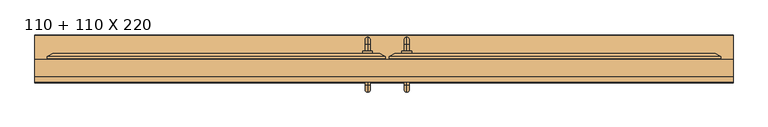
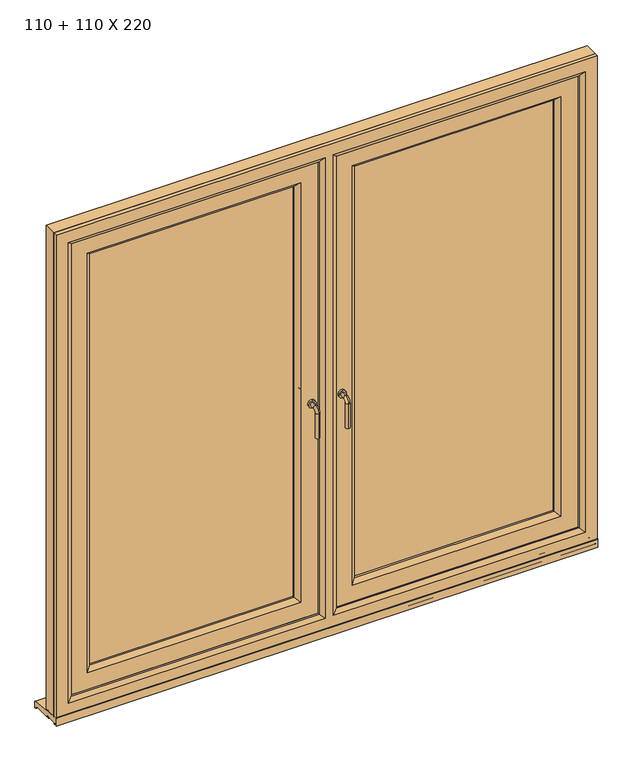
"""IFC4 building model written with IfcOpenShell, lengths in millimetres: door geometry, Door_Matrix 70_Double_Veka_Double Glazing_Outward Opening_Frame 67mm : 110 + 110 X 220."""

from ifc_helpers import new_model, si_unit, point, frame, frame_2d, origin, place, context, project, spatial, polyline, circle_curve, ellipse_curve, trimmed, segment, composite_curve, outline, extrude, faceted_brep, source, transform, mapped, element, save
from ifc_brep_helpers import plane_surface, cylinder_surface, revolved_surface, advanced_brep


def door_110_110_x_220_0e20b769(model_context):
    return source(origin(), model_context, "Body", "SolidModel", [
        advanced_brep(
        [(71.0137838, 236.299346, 992.0), (71.0137838, 236.299346, 1008.0), (71.0137838, 256.299346, 992.0), (71.0137838, 256.299346, 1008.0), (71.0137838, 279.299346, 985.0), (71.0137838, 263.299346, 985.0), (71.0137838, 263.299346, 880.0), (71.0137838, 279.299346, 880.0)],
        [
            (0, 1, circle_curve(frame((71.0137838, 236.299346, 1000.0), z_axis=(0.0, -1.0, 0.0), x_axis=(0.0, 0.0, 1.0)), 8.0)),
            (1, 0, circle_curve(frame((71.0137838, 236.299346, 1000.0), z_axis=(0.0, -1.0, 0.0), x_axis=(0.0, 0.0, 1.0)), 8.0)),
            (0, 2),
            (2, 3, circle_curve(frame((71.0137838, 256.299346, 1000.0), z_axis=(0.0, -1.0, 0.0), x_axis=(0.0, 0.0, 1.0)), 8.0)),
            (3, 1),
            (3, 2, circle_curve(frame((71.0137838, 256.299346, 1000.0), z_axis=(0.0, -1.0, 0.0), x_axis=(0.0, 0.0, 1.0)), 8.0)),
            (4, 3, circle_curve(frame((71.0137838, 256.299346, 985.0), z_axis=(1.0, 0.0, 0.0), x_axis=(0.0, 0.0, 1.0)), 23.0)),
            (2, 5, circle_curve(frame((71.0137838, 256.299346, 985.0), z_axis=(-1.0, 0.0, 0.0), x_axis=(0.0, 0.0, 1.0)), 7.0)),
            (5, 4, circle_curve(frame((71.0137838, 271.299346, 985.0), z_axis=(0.0, 0.0, 1.0), x_axis=(0.0, 1.0, 0.0)), 8.0)),
            (4, 5, circle_curve(frame((71.0137838, 271.299346, 985.0), z_axis=(0.0, 0.0, 1.0), x_axis=(0.0, 1.0, 0.0)), 8.0)),
            (6, 7, circle_curve(frame((71.0137838, 271.299346, 880.0), z_axis=(0.0, 0.0, -1.0), x_axis=(0.0, 1.0, 0.0)), 8.0)),
            (7, 6, circle_curve(frame((71.0137838, 271.299346, 880.0), z_axis=(0.0, 0.0, -1.0), x_axis=(0.0, 1.0, 0.0)), 8.0)),
            (5, 6),
            (7, 4),
        ],
        [
            plane_surface(frame((71.0137838, 236.299346, 1000.0), z_axis=(0.0, -1.0, 0.0), x_axis=(1.0, 0.0, 0.0))),
            cylinder_surface(frame((71.0137838, 236.299346, 1000.0), z_axis=(0.0, -1.0, 0.0), x_axis=(0.0, 0.0, 1.0)), 8.0),
            revolved_surface(trimmed(ellipse_curve(frame((71.0137838, 256.299346, 1000.0), z_axis=(0.0, -1.0, 0.0), x_axis=(0.0, 0.0, 1.0)), 8.0, 8.0), [point((71.0137838, 256.299346, 992.0))], [point((71.0137838, 256.299346, 1008.0))], True, "CARTESIAN"), (71.0137838, 256.299346, 985.0), (-1.0, 0.0, 0.0)),
            revolved_surface(trimmed(ellipse_curve(frame((71.0137838, 256.299346, 1000.0), z_axis=(0.0, -1.0, 0.0), x_axis=(0.0, 0.0, 1.0)), 8.0, 8.0), [point((71.0137838, 256.299346, 1008.0))], [point((71.0137838, 256.299346, 992.0))], True, "CARTESIAN"), (71.0137838, 256.299346, 985.0), (-1.0, 0.0, 0.0)),
            plane_surface(frame((71.0137838, 271.299346, 880.0), z_axis=(0.0, 0.0, -1.0), x_axis=(1.0, 0.0, 0.0))),
            cylinder_surface(frame((71.0137838, 271.299346, 985.0), z_axis=(0.0, 0.0, 1.0), x_axis=(0.0, 1.0, 0.0)), 8.0),
        ],
        [
            (0, [[1, 2]]),
            (1, [[-1, 3, 4, 5]]),
            (1, [[-2, -5, 6, -3]]),
            (2, [[7, -4, 8, 9]]),
            (3, [[-8, -6, -7, 10]]),
            (4, [[11, 12]]),
            (5, [[-9, 13, -12, 14]]),
            (5, [[-10, -14, -11, -13]]),
        ],
    ),
        extrude(outline(composite_curve([segment(trimmed(circle_curve(frame_2d((1000.0, 71.0000189)), 15.0), [point((1000.0, 56.0000189))], [point((1000.0, 86.0000189))], False, "CARTESIAN"), True, "CONTINUOUS"), segment(trimmed(circle_curve(frame_2d((1000.0, 71.0000189)), 15.0), [point((1000.0, 86.0000189))], [point((1000.0, 56.0000189))], False, "CARTESIAN"), True, "CONTINUOUS")], self_intersect=False)), frame((0.0, 228.299346, 0.0), z_axis=(0.0, 1.0, 0.0), x_axis=(0.0, 0.0, 1.0)), (0.0, 0.0, 1.0), 8.0),
        advanced_brep(
        [(-51.0137838, 236.299346, 992.0), (-51.0137838, 236.299346, 1008.0), (-51.0137838, 256.299346, 1008.0), (-51.0137838, 256.299346, 992.0), (-51.0137838, 279.299346, 985.0), (-51.0137838, 263.299346, 985.0), (-51.0137838, 263.299346, 880.0), (-51.0137838, 279.299346, 880.0)],
        [
            (0, 1, circle_curve(frame((-51.0137838, 236.299346, 1000.0), z_axis=(0.0, -1.0, 0.0), x_axis=(0.0, 0.0, 1.0)), 8.0)),
            (1, 0, circle_curve(frame((-51.0137838, 236.299346, 1000.0), z_axis=(0.0, -1.0, 0.0), x_axis=(0.0, 0.0, 1.0)), 8.0)),
            (1, 2),
            (2, 3, circle_curve(frame((-51.0137838, 256.299346, 1000.0), z_axis=(0.0, -1.0, 0.0), x_axis=(0.0, 0.0, 1.0)), 8.0)),
            (3, 0),
            (3, 2, circle_curve(frame((-51.0137838, 256.299346, 1000.0), z_axis=(0.0, -1.0, 0.0), x_axis=(0.0, 0.0, 1.0)), 8.0)),
            (4, 5, circle_curve(frame((-51.0137838, 271.299346, 985.0), z_axis=(0.0, 0.0, 1.0), x_axis=(0.0, 1.0, 0.0)), 8.0)),
            (5, 3, circle_curve(frame((-51.0137838, 256.299346, 985.0), z_axis=(1.0, 0.0, 0.0), x_axis=(0.0, 0.0, 1.0)), 7.0)),
            (2, 4, circle_curve(frame((-51.0137838, 256.299346, 985.0), z_axis=(-1.0, 0.0, 0.0), x_axis=(0.0, 0.0, 1.0)), 23.0)),
            (5, 4, circle_curve(frame((-51.0137838, 271.299346, 985.0), z_axis=(0.0, 0.0, 1.0), x_axis=(0.0, 1.0, 0.0)), 8.0)),
            (6, 7, circle_curve(frame((-51.0137838, 271.299346, 880.0), z_axis=(0.0, 0.0, -1.0), x_axis=(0.0, 1.0, 0.0)), 8.0)),
            (7, 6, circle_curve(frame((-51.0137838, 271.299346, 880.0), z_axis=(0.0, 0.0, -1.0), x_axis=(0.0, 1.0, 0.0)), 8.0)),
            (4, 7),
            (6, 5),
        ],
        [
            plane_surface(frame((-51.0137838, 236.299346, 1000.0), z_axis=(0.0, -1.0, 0.0), x_axis=(-1.0, 0.0, 0.0))),
            cylinder_surface(frame((-51.0137838, 236.299346, 1000.0), z_axis=(0.0, -1.0, 0.0), x_axis=(0.0, 0.0, 1.0)), 8.0),
            revolved_surface(trimmed(ellipse_curve(frame((-51.0137838, 256.299346, 1000.0), z_axis=(0.0, 1.0, 0.0), x_axis=(0.0, 0.0, 1.0)), 8.0, 8.0), [point((-51.0137838, 256.299346, 992.0))], [point((-51.0137838, 256.299346, 1008.0))], True, "CARTESIAN"), (-51.0137838, 256.299346, 985.0), (1.0, 0.0, 0.0)),
            revolved_surface(trimmed(ellipse_curve(frame((-51.0137838, 256.299346, 1000.0), z_axis=(0.0, 1.0, 0.0), x_axis=(0.0, 0.0, 1.0)), 8.0, 8.0), [point((-51.0137838, 256.299346, 1008.0))], [point((-51.0137838, 256.299346, 992.0))], True, "CARTESIAN"), (-51.0137838, 256.299346, 985.0), (1.0, 0.0, 0.0)),
            plane_surface(frame((-51.0137838, 271.299346, 880.0), z_axis=(0.0, 0.0, -1.0), x_axis=(-1.0, 0.0, 0.0))),
            cylinder_surface(frame((-51.0137838, 271.299346, 985.0), z_axis=(0.0, 0.0, 1.0), x_axis=(0.0, 1.0, 0.0)), 8.0),
        ],
        [
            (0, [[1, 2]]),
            (1, [[3, 4, 5, -2]]),
            (1, [[-5, 6, -3, -1]]),
            (2, [[7, 8, -4, 9]]),
            (3, [[10, -9, -6, -8]]),
            (4, [[11, 12]]),
            (5, [[13, -11, 14, -7]]),
            (5, [[-14, -12, -13, -10]]),
        ],
    ),
        extrude(outline(composite_curve([segment(trimmed(circle_curve(frame_2d((1000.0, -51.0000189)), 15.0), [point((1000.0, -36.0000189))], [point((1000.0, -66.0000189))], False, "CARTESIAN"), True, "CONTINUOUS"), segment(trimmed(circle_curve(frame_2d((1000.0, -51.0000189)), 15.0), [point((1000.0, -66.0000189))], [point((1000.0, -36.0000189))], False, "CARTESIAN"), True, "CONTINUOUS")], self_intersect=False)), frame((0.0, 228.299346, 0.0), z_axis=(0.0, 1.0, 0.0), x_axis=(0.0, 0.0, 1.0)), (0.0, 0.0, 1.0), 8.0),
        extrude(outline(composite_curve([segment(trimmed(circle_curve(frame_2d((138.1512093, 33.816203)), 1.1487907), [point((137.0024185, 33.816203))], [point((139.3, 33.816203))], False, "CARTESIAN"), True, "CONTINUOUS"), segment(polyline([(139.3, 33.816203), (139.3, 0.0), (137.0024185, 0.0), (137.0024185, 33.816203)]), True, "CONTINUOUS")], self_intersect=False)), frame((-1090.0, 0.0, 0.0), z_axis=(1.0, 0.0, 0.0), x_axis=(0.0, 1.0, 0.0)), (0.0, 0.0, 1.0), 2180.0),
        extrude(outline(composite_curve([segment(polyline([(139.3, 29.9684543), (200.4535091, 29.9684543)]), True, "CONTINUOUS"), segment(trimmed(circle_curve(frame_2d((200.4535091, 28.1882095)), 1.7802448), [point((200.4535091, 29.9684543))], [point((202.2337539, 28.1882095))], False, "CARTESIAN"), True, "CONTINUOUS"), segment(polyline([(202.2337539, 28.1882095), (202.2337539, 26.2762118)]), True, "CONTINUOUS"), segment(trimmed(circle_curve(frame_2d((203.8166581, 26.2762118)), 1.5829042), [point((202.2337539, 26.2762118))], [point((203.6511996, 24.701979))], True, "CARTESIAN"), True, "CONTINUOUS"), segment(polyline([(203.6511996, 24.701979), (284.7623156, 16.1768571)]), True, "CONTINUOUS"), segment(trimmed(circle_curve(frame_2d((284.5008157, 13.6888513)), 2.5017105), [point((284.7623156, 16.1768571))], [point((287.0025262, 13.6888513))], False, "CARTESIAN"), True, "CONTINUOUS"), segment(polyline([(287.0025262, 13.6888513), (287.0025262, -10.3901624)]), True, "CONTINUOUS"), segment(trimmed(circle_curve(frame_2d((286.2180242, -10.3901624)), 0.7845019), [point((287.0025262, -10.3901624))], [point((286.0699977, -11.1605723))], False, "CARTESIAN"), True, "CONTINUOUS"), segment(polyline([(286.0699977, -11.1605723), (282.2238902, -10.4215811)]), True, "CONTINUOUS"), segment(trimmed(circle_curve(frame_2d((282.4810103, -9.0833898)), 1.3626689), [point((282.2238902, -10.4215811))], [point((281.3174293, -9.7925766))], False, "CARTESIAN"), True, "CONTINUOUS"), segment(polyline([(281.3174293, -9.7925766), (275.3489876, 0.0), (204.3024682, 0.0), (202.8452654, 1.4572028)]), True, "CONTINUOUS"), segment(trimmed(circle_curve(frame_2d((203.3641335, 1.9760709)), 0.7337904), [point((202.8452654, 1.4572028))], [point((203.7735167, 2.5850485))], False, "CARTESIAN"), True, "CONTINUOUS"), segment(trimmed(circle_curve(frame_2d((204.052468, 3.0000022)), 0.5000004), [point((203.7735167, 2.5850485))], [point((204.5524684, 3.0000022))], True, "CARTESIAN"), True, "CONTINUOUS"), segment(polyline([(204.5524684, 3.0000022), (204.5524684, 6.7000049), (194.8524612, 6.7000049), (194.8524612, 3.1794688)]), True, "CONTINUOUS"), segment(trimmed(circle_curve(frame_2d((195.6249307, 3.1794688)), 0.7724695), [point((194.8524612, 3.1794688))], [point((195.8915102, 2.4544554))], True, "CARTESIAN"), True, "CONTINUOUS"), segment(trimmed(circle_curve(frame_2d((196.1045415, 1.8750769)), 0.617302), [point((195.8915102, 2.4544554))], [point((196.5410399, 1.4385785))], False, "CARTESIAN"), True, "CONTINUOUS"), segment(polyline([(196.5410399, 1.4385785), (195.5024617, 0.4000003), (192.2024592, 0.4000003), (191.163881, 1.4385785)]), True, "CONTINUOUS"), segment(trimmed(circle_curve(frame_2d((191.6003795, 1.8750769)), 0.617302), [point((191.163881, 1.4385785))], [point((191.8134107, 2.4544554))], False, "CARTESIAN"), True, "CONTINUOUS"), segment(trimmed(circle_curve(frame_2d((192.0799903, 3.1794688)), 0.7724695), [point((191.8134107, 2.4544554))], [point((192.8524597, 3.1794688))], True, "CARTESIAN"), True, "CONTINUOUS"), segment(polyline([(192.8524597, 3.1794688), (192.8524597, 4.6211108)]), True, "CONTINUOUS"), segment(trimmed(circle_curve(frame_2d((192.0735665, 4.6211108)), 0.7788932), [point((192.8524597, 4.6211108))], [point((192.0735665, 5.400004))], True, "CARTESIAN"), True, "CONTINUOUS"), segment(polyline([(192.0735665, 5.400004), (152.0132707, 5.400004)]), True, "CONTINUOUS"), segment(trimmed(circle_curve(frame_2d((152.0132707, 4.5391622)), 0.8608418), [point((152.0132707, 5.400004))], [point((151.1524289, 4.5391622))], True, "CARTESIAN"), True, "CONTINUOUS"), segment(polyline([(151.1524289, 4.5391622), (151.1524289, 3.0000022)]), True, "CONTINUOUS"), segment(trimmed(circle_curve(frame_2d((151.6524293, 3.0000022)), 0.5000004), [point((151.1524289, 3.0000022))], [point((151.899745, 2.5654504))], True, "CARTESIAN"), True, "CONTINUOUS"), segment(trimmed(circle_curve(frame_2d((152.2679893, 1.918418)), 0.7444829), [point((151.899745, 2.5654504))], [point((152.7944182, 1.3919891))], False, "CARTESIAN"), True, "CONTINUOUS"), segment(polyline([(152.7944182, 1.3919891), (151.4024291, 0.0), (148.9024273, 0.0), (147.4452245, 1.4572028)]), True, "CONTINUOUS"), segment(trimmed(circle_curve(frame_2d((147.9640926, 1.9760709)), 0.7337904), [point((147.4452245, 1.4572028))], [point((148.3734758, 2.5850485))], False, "CARTESIAN"), True, "CONTINUOUS"), segment(trimmed(circle_curve(frame_2d((148.6524271, 3.0000022)), 0.5000004), [point((148.3734758, 2.5850485))], [point((149.1524275, 3.0000022))], True, "CARTESIAN"), True, "CONTINUOUS"), segment(polyline([(149.1524275, 3.0000022), (149.1524275, 5.8233683)]), True, "CONTINUOUS"), segment(trimmed(circle_curve(frame_2d((148.2757908, 5.8233683)), 0.8766367), [point((149.1524275, 5.8233683))], [point((148.2757908, 6.7000049))], True, "CARTESIAN"), True, "CONTINUOUS"), segment(polyline([(148.2757908, 6.7000049), (139.3, 6.7000049), (139.3, 29.9684543)]), True, "CONTINUOUS")], self_intersect=False)), frame((-1090.0, 0.0, 0.0), z_axis=(1.0, 0.0, 0.0), x_axis=(0.0, 1.0, 0.0)), (0.0, 0.0, 1.0), 2180.0),
        advanced_brep(
        [(71.0137838, 150.3000993, 992.0), (71.0137838, 150.3000993, 1008.0), (71.0137838, 130.3000993, 1008.0), (71.0137838, 130.3000993, 992.0), (71.0137838, 107.3000993, 985.0), (71.0137838, 123.3000993, 985.0), (71.0137838, 123.3000993, 880.0), (71.0137838, 107.3000993, 880.0)],
        [
            (0, 1, circle_curve(frame((71.0137838, 150.3000993, 1000.0), z_axis=(0.0, 1.0, 0.0), x_axis=(0.0, 0.0, 1.0)), 8.0)),
            (1, 0, circle_curve(frame((71.0137838, 150.3000993, 1000.0), z_axis=(0.0, 1.0, 0.0), x_axis=(0.0, 0.0, 1.0)), 8.0)),
            (1, 2),
            (2, 3, circle_curve(frame((71.0137838, 130.3000993, 1000.0), z_axis=(0.0, 1.0, 0.0), x_axis=(0.0, 0.0, 1.0)), 8.0)),
            (3, 0),
            (3, 2, circle_curve(frame((71.0137838, 130.3000993, 1000.0), z_axis=(0.0, 1.0, 0.0), x_axis=(0.0, 0.0, 1.0)), 8.0)),
            (4, 5, circle_curve(frame((71.0137838, 115.3000993, 985.0), z_axis=(0.0, 0.0, 1.0), x_axis=(0.0, -1.0, 0.0)), 8.0)),
            (5, 3, circle_curve(frame((71.0137838, 130.3000993, 985.0), z_axis=(-1.0, 0.0, 0.0), x_axis=(0.0, 0.0, 1.0)), 7.0)),
            (2, 4, circle_curve(frame((71.0137838, 130.3000993, 985.0), z_axis=(1.0, 0.0, 0.0), x_axis=(0.0, 0.0, 1.0)), 23.0)),
            (5, 4, circle_curve(frame((71.0137838, 115.3000993, 985.0), z_axis=(0.0, 0.0, 1.0), x_axis=(0.0, -1.0, 0.0)), 8.0)),
            (6, 7, circle_curve(frame((71.0137838, 115.3000993, 880.0), z_axis=(0.0, 0.0, -1.0), x_axis=(0.0, -1.0, 0.0)), 8.0)),
            (7, 6, circle_curve(frame((71.0137838, 115.3000993, 880.0), z_axis=(0.0, 0.0, -1.0), x_axis=(0.0, -1.0, 0.0)), 8.0)),
            (4, 7),
            (6, 5),
        ],
        [
            plane_surface(frame((71.0137838, 150.3000993, 1000.0), z_axis=(0.0, 1.0, 0.0), x_axis=(1.0, 0.0, 0.0))),
            cylinder_surface(frame((71.0137838, 150.3000993, 1000.0), z_axis=(0.0, 1.0, 0.0), x_axis=(0.0, 0.0, 1.0)), 8.0),
            revolved_surface(trimmed(ellipse_curve(frame((71.0137838, 130.3000993, 1000.0), z_axis=(0.0, -1.0, 0.0), x_axis=(0.0, 0.0, 1.0)), 8.0, 8.0), [point((71.0137838, 130.3000993, 992.0))], [point((71.0137838, 130.3000993, 1008.0))], True, "CARTESIAN"), (71.0137838, 130.3000993, 985.0), (-1.0, 0.0, 0.0)),
            revolved_surface(trimmed(ellipse_curve(frame((71.0137838, 130.3000993, 1000.0), z_axis=(0.0, -1.0, 0.0), x_axis=(0.0, 0.0, 1.0)), 8.0, 8.0), [point((71.0137838, 130.3000993, 1008.0))], [point((71.0137838, 130.3000993, 992.0))], True, "CARTESIAN"), (71.0137838, 130.3000993, 985.0), (-1.0, 0.0, 0.0)),
            plane_surface(frame((71.0137838, 115.3000993, 880.0), z_axis=(0.0, 0.0, -1.0), x_axis=(1.0, 0.0, 0.0))),
            cylinder_surface(frame((71.0137838, 115.3000993, 985.0), z_axis=(0.0, 0.0, 1.0), x_axis=(0.0, -1.0, 0.0)), 8.0),
        ],
        [
            (0, [[1, 2]]),
            (1, [[3, 4, 5, -2]]),
            (1, [[-5, 6, -3, -1]]),
            (2, [[7, 8, -4, 9]]),
            (3, [[10, -9, -6, -8]]),
            (4, [[11, 12]]),
            (5, [[13, -11, 14, -7]]),
            (5, [[-14, -12, -13, -10]]),
        ],
    ),
        extrude(outline(composite_curve([segment(trimmed(circle_curve(frame_2d((1000.0, 71.0000189)), 15.0), [point((1000.0, 56.0000189))], [point((1000.0, 86.0000189))], False, "CARTESIAN"), True, "CONTINUOUS"), segment(trimmed(circle_curve(frame_2d((1000.0, 71.0000189)), 15.0), [point((1000.0, 86.0000189))], [point((1000.0, 56.0000189))], False, "CARTESIAN"), True, "CONTINUOUS")], self_intersect=False)), frame((0.0, 150.3000993, 0.0), z_axis=(0.0, 1.0, 0.0), x_axis=(0.0, 0.0, 1.0)), (0.0, 0.0, 1.0), 8.0),
        advanced_brep(
        [(-51.0137838, 150.3000993, 992.0), (-51.0137838, 150.3000993, 1008.0), (-51.0137838, 130.3000993, 992.0), (-51.0137838, 130.3000993, 1008.0), (-51.0137838, 107.3000993, 985.0), (-51.0137838, 123.3000993, 985.0), (-51.0137838, 123.3000993, 880.0), (-51.0137838, 107.3000993, 880.0)],
        [
            (0, 1, circle_curve(frame((-51.0137838, 150.3000993, 1000.0), z_axis=(0.0, 1.0, 0.0), x_axis=(0.0, 0.0, 1.0)), 8.0)),
            (1, 0, circle_curve(frame((-51.0137838, 150.3000993, 1000.0), z_axis=(0.0, 1.0, 0.0), x_axis=(0.0, 0.0, 1.0)), 8.0)),
            (0, 2),
            (2, 3, circle_curve(frame((-51.0137838, 130.3000993, 1000.0), z_axis=(0.0, 1.0, 0.0), x_axis=(0.0, 0.0, 1.0)), 8.0)),
            (3, 1),
            (3, 2, circle_curve(frame((-51.0137838, 130.3000993, 1000.0), z_axis=(0.0, 1.0, 0.0), x_axis=(0.0, 0.0, 1.0)), 8.0)),
            (4, 3, circle_curve(frame((-51.0137838, 130.3000993, 985.0), z_axis=(-1.0, 0.0, 0.0), x_axis=(0.0, 0.0, 1.0)), 23.0)),
            (2, 5, circle_curve(frame((-51.0137838, 130.3000993, 985.0), z_axis=(1.0, 0.0, 0.0), x_axis=(0.0, 0.0, 1.0)), 7.0)),
            (5, 4, circle_curve(frame((-51.0137838, 115.3000993, 985.0), z_axis=(0.0, 0.0, 1.0), x_axis=(0.0, -1.0, 0.0)), 8.0)),
            (4, 5, circle_curve(frame((-51.0137838, 115.3000993, 985.0), z_axis=(0.0, 0.0, 1.0), x_axis=(0.0, -1.0, 0.0)), 8.0)),
            (6, 7, circle_curve(frame((-51.0137838, 115.3000993, 880.0), z_axis=(0.0, 0.0, -1.0), x_axis=(0.0, -1.0, 0.0)), 8.0)),
            (7, 6, circle_curve(frame((-51.0137838, 115.3000993, 880.0), z_axis=(0.0, 0.0, -1.0), x_axis=(0.0, -1.0, 0.0)), 8.0)),
            (5, 6),
            (7, 4),
        ],
        [
            plane_surface(frame((-51.0137838, 150.3000993, 1000.0), z_axis=(0.0, 1.0, 0.0), x_axis=(-1.0, 0.0, 0.0))),
            cylinder_surface(frame((-51.0137838, 150.3000993, 1000.0), z_axis=(0.0, 1.0, 0.0), x_axis=(0.0, 0.0, 1.0)), 8.0),
            revolved_surface(trimmed(ellipse_curve(frame((-51.0137838, 130.3000993, 1000.0), z_axis=(0.0, 1.0, 0.0), x_axis=(0.0, 0.0, 1.0)), 8.0, 8.0), [point((-51.0137838, 130.3000993, 992.0))], [point((-51.0137838, 130.3000993, 1008.0))], True, "CARTESIAN"), (-51.0137838, 130.3000993, 985.0), (1.0, 0.0, 0.0)),
            revolved_surface(trimmed(ellipse_curve(frame((-51.0137838, 130.3000993, 1000.0), z_axis=(0.0, 1.0, 0.0), x_axis=(0.0, 0.0, 1.0)), 8.0, 8.0), [point((-51.0137838, 130.3000993, 1008.0))], [point((-51.0137838, 130.3000993, 992.0))], True, "CARTESIAN"), (-51.0137838, 130.3000993, 985.0), (1.0, 0.0, 0.0)),
            plane_surface(frame((-51.0137838, 115.3000993, 880.0), z_axis=(0.0, 0.0, -1.0), x_axis=(-1.0, 0.0, 0.0))),
            cylinder_surface(frame((-51.0137838, 115.3000993, 985.0), z_axis=(0.0, 0.0, 1.0), x_axis=(0.0, -1.0, 0.0)), 8.0),
        ],
        [
            (0, [[1, 2]]),
            (1, [[-1, 3, 4, 5]]),
            (1, [[-2, -5, 6, -3]]),
            (2, [[7, -4, 8, 9]]),
            (3, [[-8, -6, -7, 10]]),
            (4, [[11, 12]]),
            (5, [[-9, 13, -12, 14]]),
            (5, [[-10, -14, -11, -13]]),
        ],
    ),
        extrude(outline(composite_curve([segment(trimmed(circle_curve(frame_2d((1000.0, -51.0000189)), 15.0), [point((1000.0, -36.0000189))], [point((1000.0, -66.0000189))], False, "CARTESIAN"), True, "CONTINUOUS"), segment(trimmed(circle_curve(frame_2d((1000.0, -51.0000189)), 15.0), [point((1000.0, -66.0000189))], [point((1000.0, -36.0000189))], False, "CARTESIAN"), True, "CONTINUOUS")], self_intersect=False)), frame((0.0, 150.3000993, 0.0), z_axis=(0.0, 1.0, 0.0), x_axis=(0.0, 0.0, 1.0)), (0.0, 0.0, 1.0), 8.0),
        faceted_brep([(-16.0118251, 158.2991455, 2031.0118251), (-16.0118251, 158.2991455, 89.0118251), (-16.0118251, 173.8001213, 89.0118251), (-16.0118251, 173.8001213, 2031.0118251), (-1031.0118251, 158.2991455, 89.0118251), (-1031.0118251, 173.8001213, 89.0118251), (-1031.0118251, 158.2991455, 2031.0118251), (-1031.0118251, 173.8001213, 2031.0118251), (-91.0085876, 173.8001213, 164.0085876), (-91.0085876, 173.8001213, 1956.0150626), (-956.0150626, 173.8001213, 1956.0150626), (-956.0150626, 173.8001213, 164.0085876), (-91.0085876, 168.7759158, 164.0085876), (-91.0085876, 168.7759158, 1956.0150626), (-956.0150626, 168.7759158, 164.0085876), (-956.0150626, 168.7759158, 1956.0150626), (-93.5357965, 158.2991455, 1953.4878537), (-93.5357965, 158.2991455, 166.5357965), (-953.4878537, 158.2991455, 166.5357965), (-953.4878537, 158.2991455, 1953.4878537), (-111.034598, 172.9838124, 1935.9890521), (-111.034598, 172.9838124, 184.034598), (-111.034598, 181.3179487, 1935.9890521), (-111.034598, 181.3179487, 184.034598), (-103.5506206, 181.3179487, 176.5506206), (-103.5506206, 181.3179487, 1943.4730296), (-935.9890521, 172.9838124, 184.034598), (-935.9890521, 181.3179487, 184.034598), (-943.4730296, 181.3179487, 176.5506206), (-935.9890521, 172.9838124, 1935.9890521), (-935.9890521, 181.3179487, 1935.9890521), (-943.4730296, 181.3179487, 1943.4730296)], [[[0, 1, 2, 3]], [[1, 4, 5, 2]], [[4, 6, 7, 5]], [[6, 0, 3, 7]], [[3, 2, 5, 7], [8, 9, 10, 11]], [[9, 8, 12, 13]], [[8, 11, 14, 12]], [[11, 10, 15, 14]], [[1, 0, 6, 4], [16, 17, 18, 19]], [[10, 9, 13, 15]], [[20, 21, 17, 16]], [[22, 23, 21, 20]], [[13, 12, 24, 25]], [[21, 26, 18, 17]], [[23, 27, 26, 21]], [[12, 14, 28, 24]], [[26, 29, 19, 18]], [[27, 30, 29, 26]], [[14, 15, 31, 28]], [[29, 20, 16, 19]], [[30, 22, 20, 29]], [[25, 24, 28, 31], [23, 22, 30, 27]], [[15, 13, 25, 31]]]),
        extrude(outline(polyline([(-950.9872592, 181.3254673), (-950.9872592, 209.3372512), (-96.036391, 209.3372512), (-96.036391, 181.3254673), (-950.9872592, 181.3254673)])), frame((0.0, 0.0, 169.0118251), z_axis=(0.0, 0.0, 1.0), x_axis=(1.0, 0.0, 0.0)), (0.0, 0.0, 1.0), 1782.0),
        extrude(outline(polyline([(174.7833621, -101.7833621), (1945.2402881, -101.7833621), (1945.2402881, -945.2402881), (174.7833621, -945.2402881), (174.7833621, -101.7833621)]), holes=[polyline([(1936.2235734, -110.8000768), (183.8000768, -110.8000768), (183.8000768, -936.2235734), (1936.2235734, -936.2235734), (1936.2235734, -110.8000768)])]), frame((0.0, 209.3100318, 0.0), z_axis=(0.0, 1.0, 0.0), x_axis=(0.0, 0.0, 1.0)), (0.0, 0.0, 1.0), 3.4991592),
        extrude(outline(polyline([(69.7530278, 3.2469722), (2050.2706224, 3.2469722), (2050.2706224, -1050.2706224), (69.7530278, -1050.2706224), (69.7530278, 3.2469722)]), holes=[polyline([(2041.2539077, -5.7697425), (78.7697425, -5.7697425), (78.7697425, -1041.2539077), (2041.2539077, -1041.2539077), (2041.2539077, -5.7697425)])]), frame((0.0, 209.3101868, 0.0), z_axis=(0.0, 1.0, 0.0), x_axis=(0.0, 0.0, 1.0)), (0.0, 0.0, 1.0), 3.4991592),
        extrude(outline(polyline([(87.2656421, -14.2656421), (2032.7580081, -14.2656421), (2032.7580081, -1032.7580081), (87.2656421, -1032.7580081), (87.2656421, -14.2656421)]), holes=[polyline([(2023.7412934, -23.2823568), (96.2823568, -23.2823568), (96.2823568, -1023.7412934), (2023.7412934, -1023.7412934), (2023.7412934, -23.2823568)])]), frame((0.0, 154.8140626, 0.0), z_axis=(0.0, 1.0, 0.0), x_axis=(0.0, 0.0, 1.0)), (0.0, 0.0, 1.0), 3.4991592),
        faceted_brep([(3.9898195, 218.1974346, 2051.0134697), (3.9898195, 218.1974346, 69.0101805), (-13.5094049, 228.3007268, 86.5094049), (-13.5094049, 228.3007268, 2033.5142453), (3.9898195, 212.8013505, 2051.0134697), (3.9898195, 212.8013505, 69.0101805), (-16.0115015, 173.8001213, 2031.0121487), (-16.0115015, 173.8001213, 89.0115015), (-16.0115015, 212.8013505, 89.0115015), (-16.0115015, 212.8013505, 2031.0121487), (-1051.0134697, 218.1974346, 69.0101805), (-1033.5142453, 228.3007268, 86.5094049), (-1051.0134697, 212.8013505, 69.0101805), (-1031.0121487, 173.8001213, 89.0115015), (-1031.0121487, 212.8013505, 89.0115015), (-1051.0134697, 218.1974346, 2051.0134697), (-1033.5142453, 228.3007268, 2033.5142453), (-1051.0134697, 212.8013505, 2051.0134697), (-1031.0121487, 173.8001213, 2031.0121487), (-1031.0121487, 212.8013505, 2031.0121487), (-93.5577973, 228.3007268, 166.5577973), (-93.5577973, 228.3007268, 1953.4658528), (-953.4658528, 228.3007268, 1953.4658528), (-953.4658528, 228.3007268, 166.5577973), (-90.9982833, 212.8012564, 1956.0253669), (-90.9982833, 212.8012564, 163.9982833), (-90.9982833, 173.8001213, 163.9982833), (-90.9982833, 173.8001213, 1956.0253669), (-956.0253669, 212.8012564, 163.9982833), (-956.0253669, 173.8001213, 163.9982833), (-956.0253669, 212.8012564, 1956.0253669), (-956.0253669, 173.8001213, 1956.0253669), (-110.9996043, 218.2310558, 1936.0240459), (-110.9996043, 218.2310558, 183.9996043), (-110.9996043, 212.8012564, 183.9996043), (-110.9996043, 212.8012564, 1936.0240459), (-936.0240459, 218.2310558, 183.9996043), (-936.0240459, 212.8012564, 183.9996043), (-936.0240459, 218.2310558, 1936.0240459), (-936.0240459, 212.8012564, 1936.0240459)], [[[0, 1, 2, 3]], [[4, 5, 1, 0]], [[6, 7, 8, 9]], [[1, 10, 11, 2]], [[5, 12, 10, 1]], [[7, 13, 14, 8]], [[10, 15, 16, 11]], [[12, 17, 15, 10]], [[13, 18, 19, 14]], [[15, 0, 3, 16]], [[17, 4, 0, 15]], [[5, 4, 17, 12], [9, 8, 14, 19]], [[18, 6, 9, 19]], [[3, 2, 11, 16], [20, 21, 22, 23]], [[24, 25, 26, 27]], [[25, 28, 29, 26]], [[28, 30, 31, 29]], [[7, 6, 18, 13], [27, 26, 29, 31]], [[30, 24, 27, 31]], [[32, 33, 34, 35]], [[33, 36, 37, 34]], [[36, 38, 39, 37]], [[38, 32, 35, 39]], [[21, 20, 33, 32]], [[20, 23, 36, 33]], [[23, 22, 38, 36]], [[25, 24, 30, 28], [35, 34, 37, 39]], [[22, 21, 32, 38]]]),
        faceted_brep([(1031.0118251, 158.2991455, 2031.0118251), (1031.0118251, 158.2991455, 89.0118251), (1031.0118251, 173.8001213, 89.0118251), (1031.0118251, 173.8001213, 2031.0118251), (36.0118251, 158.2991455, 89.0118251), (36.0118251, 173.8001213, 89.0118251), (36.0118251, 158.2991455, 2031.0118251), (36.0118251, 173.8001213, 2031.0118251), (956.0150626, 173.8001213, 164.0085876), (956.0150626, 173.8001213, 1956.0150626), (111.0085876, 173.8001213, 1956.0150626), (111.0085876, 173.8001213, 164.0085876), (956.0150626, 168.7759158, 164.0085876), (956.0150626, 168.7759158, 1956.0150626), (111.0085876, 168.7759158, 164.0085876), (111.0085876, 168.7759158, 1956.0150626), (953.4878537, 158.2991455, 1953.4878537), (953.4878537, 158.2991455, 166.5357965), (113.5357965, 158.2991455, 166.5357965), (113.5357965, 158.2991455, 1953.4878537), (935.9890521, 172.9838124, 1935.9890521), (935.9890521, 172.9838124, 184.034598), (935.9890521, 181.3179487, 1935.9890521), (935.9890521, 181.3179487, 184.034598), (943.4730296, 181.3179487, 176.5506206), (943.4730296, 181.3179487, 1943.4730296), (131.034598, 172.9838124, 184.034598), (131.034598, 181.3179487, 184.034598), (123.5506206, 181.3179487, 176.5506206), (131.034598, 172.9838124, 1935.9890521), (131.034598, 181.3179487, 1935.9890521), (123.5506206, 181.3179487, 1943.4730296)], [[[0, 1, 2, 3]], [[1, 4, 5, 2]], [[4, 6, 7, 5]], [[6, 0, 3, 7]], [[3, 2, 5, 7], [8, 9, 10, 11]], [[9, 8, 12, 13]], [[8, 11, 14, 12]], [[11, 10, 15, 14]], [[1, 0, 6, 4], [16, 17, 18, 19]], [[10, 9, 13, 15]], [[20, 21, 17, 16]], [[22, 23, 21, 20]], [[13, 12, 24, 25]], [[21, 26, 18, 17]], [[23, 27, 26, 21]], [[12, 14, 28, 24]], [[26, 29, 19, 18]], [[27, 30, 29, 26]], [[14, 15, 31, 28]], [[29, 20, 16, 19]], [[30, 22, 20, 29]], [[25, 24, 28, 31], [23, 22, 30, 27]], [[15, 13, 25, 31]]]),
        extrude(outline(polyline([(116.036391, 181.3254673), (116.036391, 209.3372512), (950.9872592, 209.3372512), (950.9872592, 181.3254673), (116.036391, 181.3254673)])), frame((0.0, 0.0, 169.0118251), z_axis=(0.0, 0.0, 1.0), x_axis=(1.0, 0.0, 0.0)), (0.0, 0.0, 1.0), 1782.0),
        extrude(outline(polyline([(174.7833621, 945.2402881), (1945.2402881, 945.2402881), (1945.2402881, 121.7833621), (174.7833621, 121.7833621), (174.7833621, 945.2402881)]), holes=[polyline([(1936.2235734, 936.2235734), (183.8000768, 936.2235734), (183.8000768, 130.8000768), (1936.2235734, 130.8000768), (1936.2235734, 936.2235734)])]), frame((0.0, 209.3100318, 0.0), z_axis=(0.0, 1.0, 0.0), x_axis=(0.0, 0.0, 1.0)), (0.0, 0.0, 1.0), 3.4991592),
        extrude(outline(polyline([(69.7530278, 1050.2706224), (2050.2706224, 1050.2706224), (2050.2706224, 16.7530278), (69.7530278, 16.7530278), (69.7530278, 1050.2706224)]), holes=[polyline([(2041.2539077, 1041.2539077), (78.7697425, 1041.2539077), (78.7697425, 25.7697425), (2041.2539077, 25.7697425), (2041.2539077, 1041.2539077)])]), frame((0.0, 209.3101868, 0.0), z_axis=(0.0, 1.0, 0.0), x_axis=(0.0, 0.0, 1.0)), (0.0, 0.0, 1.0), 3.4991592),
        extrude(outline(polyline([(87.2656421, 1032.7580081), (2032.7580081, 1032.7580081), (2032.7580081, 34.2656421), (87.2656421, 34.2656421), (87.2656421, 1032.7580081)]), holes=[polyline([(2023.7412934, 1023.7412934), (96.2823568, 1023.7412934), (96.2823568, 43.2823568), (2023.7412934, 43.2823568), (2023.7412934, 1023.7412934)])]), frame((0.0, 154.8140626, 0.0), z_axis=(0.0, 1.0, 0.0), x_axis=(0.0, 0.0, 1.0)), (0.0, 0.0, 1.0), 3.4991592),
        faceted_brep([(1051.0134697, 218.1974346, 2051.0134697), (1051.0134697, 218.1974346, 69.0101805), (1033.5142453, 228.3007268, 86.5094049), (1033.5142453, 228.3007268, 2033.5142453), (1051.0134697, 212.8013505, 2051.0134697), (1051.0134697, 212.8013505, 69.0101805), (1031.0121487, 173.8001213, 2031.0121487), (1031.0121487, 173.8001213, 89.0115015), (1031.0121487, 212.8013505, 89.0115015), (1031.0121487, 212.8013505, 2031.0121487), (16.0101805, 218.1974346, 69.0101805), (33.5094049, 228.3007268, 86.5094049), (16.0101805, 212.8013505, 69.0101805), (36.0115015, 173.8001213, 89.0115015), (36.0115015, 212.8013505, 89.0115015), (16.0101805, 218.1974346, 2051.0134697), (33.5094049, 228.3007268, 2033.5142453), (16.0101805, 212.8013505, 2051.0134697), (36.0115015, 173.8001213, 2031.0121487), (36.0115015, 212.8013505, 2031.0121487), (953.4658528, 228.3007268, 166.5577973), (953.4658528, 228.3007268, 1953.4658528), (113.5577973, 228.3007268, 1953.4658528), (113.5577973, 228.3007268, 166.5577973), (956.0253669, 212.8012564, 1956.0253669), (956.0253669, 212.8012564, 163.9982833), (956.0253669, 173.8001213, 163.9982833), (956.0253669, 173.8001213, 1956.0253669), (110.9982833, 212.8012564, 163.9982833), (110.9982833, 173.8001213, 163.9982833), (110.9982833, 212.8012564, 1956.0253669), (110.9982833, 173.8001213, 1956.0253669), (936.0240459, 218.2310558, 1936.0240459), (936.0240459, 218.2310558, 183.9996043), (936.0240459, 212.8012564, 183.9996043), (936.0240459, 212.8012564, 1936.0240459), (130.9996043, 218.2310558, 183.9996043), (130.9996043, 212.8012564, 183.9996043), (130.9996043, 218.2310558, 1936.0240459), (130.9996043, 212.8012564, 1936.0240459)], [[[0, 1, 2, 3]], [[4, 5, 1, 0]], [[6, 7, 8, 9]], [[1, 10, 11, 2]], [[5, 12, 10, 1]], [[7, 13, 14, 8]], [[10, 15, 16, 11]], [[12, 17, 15, 10]], [[13, 18, 19, 14]], [[15, 0, 3, 16]], [[17, 4, 0, 15]], [[5, 4, 17, 12], [9, 8, 14, 19]], [[18, 6, 9, 19]], [[3, 2, 11, 16], [20, 21, 22, 23]], [[24, 25, 26, 27]], [[25, 28, 29, 26]], [[28, 30, 31, 29]], [[7, 6, 18, 13], [27, 26, 29, 31]], [[30, 24, 27, 31]], [[32, 33, 34, 35]], [[33, 36, 37, 34]], [[36, 38, 39, 37]], [[38, 32, 35, 39]], [[21, 20, 33, 32]], [[20, 23, 36, 33]], [[23, 22, 38, 36]], [[25, 24, 30, 28], [35, 34, 37, 39]], [[22, 21, 32, 38]]]),
        faceted_brep([(20.9983546, 154.7970422, 2084.9624465), (20.9983546, 158.06822, 2084.9624465), (-1.0007487, 158.06822, 2084.9624465), (-1.0007487, 154.7970422, 2084.9624465), (-1.0007487, 154.7970422, 35.0), (-1.0007487, 158.06822, 35.0), (20.9983546, 158.06822, 35.0), (20.9983546, 154.7970422, 35.0), (1090.0, 139.2980769, 30.0), (1090.0, 139.2980769, 2090.0), (-1090.0, 139.2980769, 2090.0), (-1090.0, 139.2980769, 30.0), (-6.5000347, 139.2980769, 2040.6351244), (-6.5000347, 139.2980769, 79.3648756), (-1040.6340004, 139.2980769, 79.3659996), (-1040.6340004, 139.2980769, 2040.6340004), (26.4976406, 139.2980769, 79.3648756), (26.4976406, 139.2980769, 2040.6351244), (1040.6340004, 139.2980769, 2040.6340004), (1040.6340004, 139.2980769, 79.3659996), (43.9982232, 149.4011467, 96.9998025), (43.998078, 149.4010629, 2023.0000053), (43.998078, 154.7970422, 96.9999947), (43.998078, 154.7970422, 2023.0000053), (1090.0, 154.7970422, 2090.0), (1090.0, 154.7970422, 30.0), (-1090.0, 154.7970422, 30.0), (-1090.0, 154.7970422, 2090.0), (1023.0000053, 154.7970422, 96.9999947), (1023.0000053, 154.7970422, 2023.0000053), (-1023.0000053, 154.7970422, 96.9999947), (-24.0004721, 154.7970422, 96.9999947), (-24.0004721, 154.7970422, 2023.0000053), (-1023.0000053, 154.7970422, 2023.0000053), (-24.0004721, 149.4010629, 96.9999947), (-24.0004721, 149.4010629, 2023.0000053), (1023.0000053, 149.4012568, 2023.0000053), (1023.0000053, 149.4012568, 96.9999947), (-1023.0000053, 149.4012568, 96.9999947), (-1023.0000053, 149.4012568, 2023.0000053)], [[[0, 1, 2, 3]], [[4, 5, 6, 7]], [[8, 9, 10, 11], [12, 13, 14, 15], [16, 17, 18, 19]], [[17, 16, 20, 21]], [[21, 20, 22, 23]], [[24, 25, 26, 27], [0, 3, 4, 7], [23, 22, 28, 29], [30, 31, 32, 33]], [[1, 0, 7, 6]], [[2, 1, 6, 5]], [[4, 3, 2, 5]], [[32, 31, 34, 35]], [[13, 12, 35, 34]], [[36, 29, 28, 37]], [[36, 37, 19, 18]], [[24, 9, 8, 25]], [[37, 28, 22, 20]], [[30, 38, 34, 31]], [[19, 37, 20, 16]], [[38, 14, 13, 34]], [[25, 8, 11, 26]], [[38, 30, 33, 39]], [[14, 38, 39, 15]], [[26, 11, 10, 27]], [[29, 36, 21, 23]], [[39, 33, 32, 35]], [[36, 18, 17, 21]], [[15, 39, 35, 12]], [[9, 24, 27, 10]]]),
        faceted_brep([(1090.0, 209.2961568, 2090.0), (1090.0, 209.2961568, 30.0), (-1090.0, 209.2961568, 30.0), (-1090.0, 209.2961568, 2090.0), (22.5812807, 209.2961568, 2042.9916188), (22.5812807, 209.2961568, 77.0083812), (1042.9916188, 209.2961568, 77.0083812), (1042.9916188, 209.2961568, 2042.9916188), (-2.4438029, 209.2961568, 77.0083812), (-2.4438029, 209.2961568, 2042.9916188), (-1042.9916188, 209.2961568, 2042.9916188), (-1042.9916188, 209.2961568, 77.0083812), (-2.4438029, 158.0667351, 77.0083812), (-2.4438029, 158.0667351, 2042.9916188), (22.5812807, 158.0667351, 77.0083812), (22.5812807, 158.0667351, 2042.9916188), (1042.9916188, 154.8328407, 2042.9916188), (1042.9916188, 154.8328407, 77.0083812), (1090.0, 154.8328407, 2090.0), (1090.0, 154.8328407, 30.0), (-1042.9916188, 154.8328407, 77.0083812), (-1090.0, 154.8328407, 30.0), (-1042.9916188, 154.8328407, 2042.9916188), (-1090.0, 154.8328407, 2090.0)], [[[0, 1, 2, 3], [4, 5, 6, 7], [8, 9, 10, 11]], [[9, 8, 12, 13]], [[13, 12, 14, 15]], [[5, 4, 15, 14]], [[16, 7, 6, 17]], [[0, 18, 19, 1]], [[17, 6, 5, 14, 12, 8, 11, 20]], [[1, 19, 21, 2]], [[20, 11, 10, 22]], [[2, 21, 23, 3]], [[7, 16, 22, 10, 9, 13, 15, 4]], [[19, 18, 23, 21], [16, 17, 20, 22]], [[18, 0, 3, 23]]]),
    ])


if __name__ == "__main__":
    model = new_model("IFC4")
    model_context = context("Model", 3, world=origin())
    ifc_project = project(units=[si_unit("LENGTHUNIT", "METRE", prefix="MILLI")], contexts=[model_context])
    site = spatial("IfcSite", under=ifc_project)
    building = spatial("IfcBuilding", under=site)
    placement = place(None, origin())
    door_110_110_x_220_shape = door_110_110_x_220_0e20b769(model_context)
    element("IfcDoor", 1, ObjectType="Door_Matrix 70_Double_Veka_Double Glazing_Outward Opening_Frame 67mm : 110 + 110 X 220", at=placement, inside=building, context=model_context, shape_type="MappedRepresentation", body=[
        mapped(door_110_110_x_220_shape, transform((0.0, 0.0, 0.0), x_axis=(1.0, 0.0, 0.0), y_axis=(0.0, 1.0, 0.0), z_axis=(0.0, 0.0, 1.0))),
    ])
    save(model, "model.ifc")
